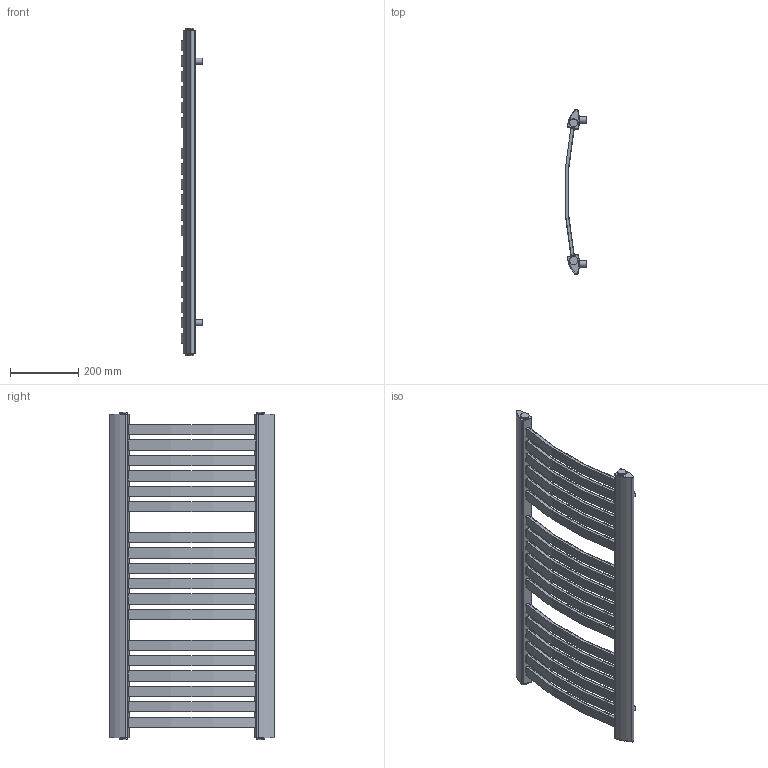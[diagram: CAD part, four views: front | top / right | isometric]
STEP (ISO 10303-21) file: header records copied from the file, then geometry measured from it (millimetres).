
FILE_DESCRIPTION(/* description */ (''),/* implementation_level */ '2;1');
FILE_NAME(/* name */ 'C:\Grzejniki\13DLUXRAD\łazienkowe\KASTOR\KASTOR 945x480.iam.stp',/* time_stamp */ '2016-06-28T17:35:08+02:00',/* author */ ('m.szydziak'),/* organization */ (''),/* preprocessor_version */ 'ST-DEVELOPER v16.5',/* originating_system */ 'Autodesk Inventor 2017',/* authorisation */ '');
FILE_SCHEMA (('AUTOMOTIVE_DESIGN { 1 0 10303 214 3 1 1 }'));
Length unit declared in the file: millimetre
Products named in the file (6): KASTOR 945x480; 30x10x384x1; 56x34x1,2x945; zaślepka 56x34 G0,5inch; uchwyt stały; korek
Assembly tree (32 placements, depth 2):
  KASTOR 945x480
    30x10x384x1  x18
    56x34x1,2x945  x2
    zaślepka 56x34 G0,5inch  x4
    uchwyt stały  x4
    korek  x4
Bounding box: 64.05 x 481.97 x 957.28 mm (x, y, z)
Volume: 871203.8 mm3; surface area: 1620647.8 mm2
Topology: 32 solids, 32 shells, 896 faces, 2356 edges, 1524 vertices
Faces by surface type: plane 624, cylinder 272
Full cylindrical faces by diameter (mm): 15 x4, 18 x4, 18.631 x4, 24 x4
Entity records: 7342 total; most frequent: DIRECTION 1298, CARTESIAN_POINT 1238, ORIENTED_EDGE 1186, EDGE_CURVE 593, AXIS2_PLACEMENT_3D 455, VERTEX_POINT 395, LINE 388, VECTOR 388
